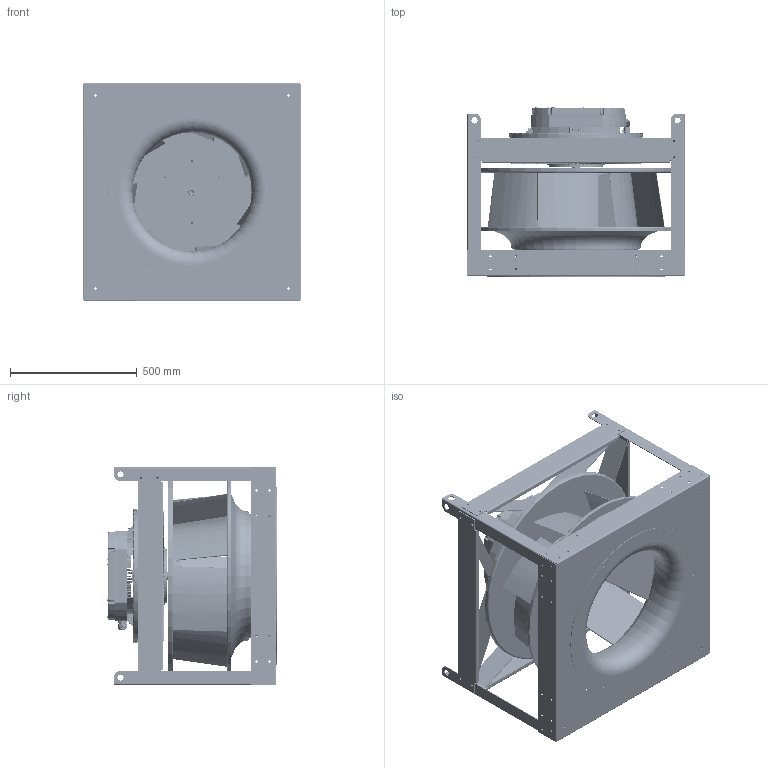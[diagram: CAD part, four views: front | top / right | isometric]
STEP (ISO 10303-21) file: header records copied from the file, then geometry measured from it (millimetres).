
FILE_DESCRIPTION (( 'STEP AP214' ), '1' );
FILE_NAME ('655789.STEP', '2026-04-07T20:47:01', ( '' ), ( '' ), 'SwSTEP 2.0', 'SolidWorks 2023', '' );
FILE_SCHEMA (( 'AUTOMOTIVE_DESIGN' ));
Length unit declared in the file: inch
Products named in the file (8): 651553_651553; 925959CS_925959CS; 651551_651551; 768040CS_768040CS; 768052CS_768052CS; 651552_651552; SXPI STRAP_651554; 655789
Assembly tree (16 placements, depth 2):
  655789
    651551_651551
    651552_651552  x4
    651553_651553  x4
    SXPI STRAP_651554  x4
    925959CS_925959CS
    768040CS_768040CS
    768052CS_768052CS
Bounding box: 864.96 x 670.48 x 864.96 mm (x, y, z)
Volume: 14744752.6 mm3; surface area: 9555820.1 mm2
Topology: 26 solids, 318 shells, 3976 faces, 12721 edges, 8755 vertices
Faces by surface type: cylinder 1131, plane 1129, bspline 1013, cone 329, torus 306, sphere 68
Full cylindrical faces by diameter (mm): 2.9 x2, 5.105 x16, 5.156 x6, 6 x37, 7 x5, 7.137 x48, 7.544 x1, 7.937 x3, 7.938 x1, 8.5 x1, 8.738 x87, 9 x4, 9.73 x8, 10 x8, 10.1 x1, 11.8 x16, 12.5 x1, 12.6 x1, 13 x15, 14 x1, 17.462 x2, 17.463 x2, 23.5 x1, 23.92 x1, 24.282 x1, 25.4 x8, 25.5 x3, 26.2 x1, 26.35 x1, 26.416 x2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
Entity records: 271783 total; most frequent: CARTESIAN_POINT 181402, ORIENTED_EDGE 18034, DIRECTION 16097, EDGE_CURVE 11405, VERTEX_POINT 8133, AXIS2_PLACEMENT_3D 6480, EDGE_LOOP 4577, B_SPLINE_CURVE_WITH_KNOTS 3905
